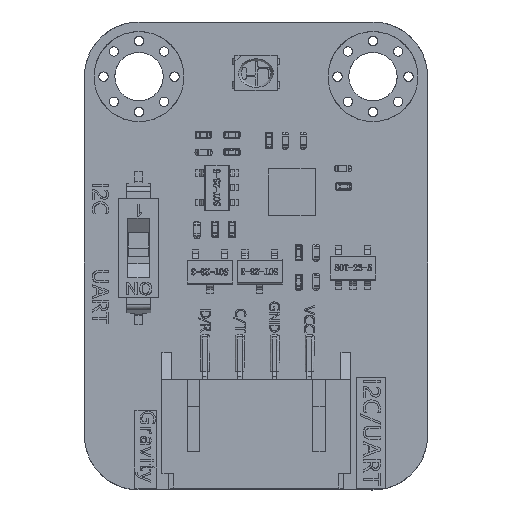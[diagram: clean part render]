
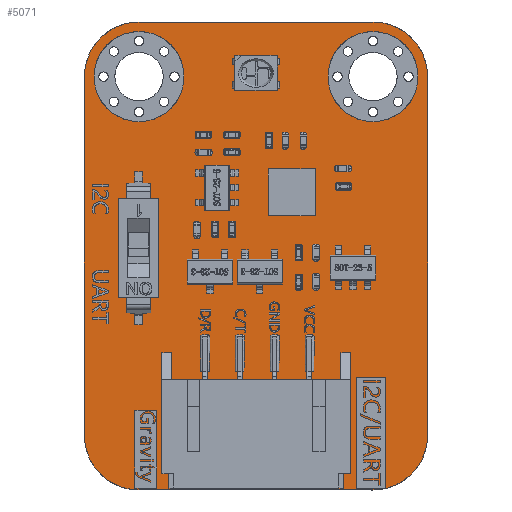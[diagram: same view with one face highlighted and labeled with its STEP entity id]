
A CAD part, top view. The second image highlights one B-rep face of the part: STEP entity #5071.
In plain terms, the highlighted planar face has unit normal (0, 0, 1).
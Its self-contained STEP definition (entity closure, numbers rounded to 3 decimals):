
#361=(
BOUNDED_CURVE()
B_SPLINE_CURVE(2,(#92674,#92675,#92676,#92677,#92678),.UNSPECIFIED.,.F.,
 .F.)
B_SPLINE_CURVE_WITH_KNOTS((3,2,3),(0.,2.749,5.498),
 .UNSPECIFIED.)
CURVE()
GEOMETRIC_REPRESENTATION_ITEM()
RATIONAL_B_SPLINE_CURVE((1.,0.924,1.,0.924,1.))
REPRESENTATION_ITEM('')
);
#362=(
BOUNDED_CURVE()
B_SPLINE_CURVE(2,(#92681,#92682,#92683,#92684,#92685),.UNSPECIFIED.,.F.,
 .F.)
B_SPLINE_CURVE_WITH_KNOTS((3,2,3),(0.,2.749,5.498),
 .UNSPECIFIED.)
CURVE()
GEOMETRIC_REPRESENTATION_ITEM()
RATIONAL_B_SPLINE_CURVE((1.,0.924,1.,0.924,1.))
REPRESENTATION_ITEM('')
);
#363=(
BOUNDED_CURVE()
B_SPLINE_CURVE(2,(#92688,#92689,#92690,#92691,#92692),.UNSPECIFIED.,.F.,
 .F.)
B_SPLINE_CURVE_WITH_KNOTS((3,2,3),(0.,2.749,5.498),
 .UNSPECIFIED.)
CURVE()
GEOMETRIC_REPRESENTATION_ITEM()
RATIONAL_B_SPLINE_CURVE((1.,0.924,1.,0.924,1.))
REPRESENTATION_ITEM('')
);
#364=(
BOUNDED_CURVE()
B_SPLINE_CURVE(2,(#92695,#92696,#92697,#92698,#92699),.UNSPECIFIED.,.F.,
 .F.)
B_SPLINE_CURVE_WITH_KNOTS((3,2,3),(0.,2.749,5.498),
 .UNSPECIFIED.)
CURVE()
GEOMETRIC_REPRESENTATION_ITEM()
RATIONAL_B_SPLINE_CURVE((1.,0.924,1.,0.924,1.))
REPRESENTATION_ITEM('')
);
#3757=FACE_BOUND('',#11190,.T.);
#3758=FACE_BOUND('',#11191,.T.);
#5071=ADVANCED_FACE('',(#8075,#3757,#3758),#47885,.T.);
#8075=FACE_OUTER_BOUND('',#11189,.T.);
#11189=EDGE_LOOP('',(#19423,#19424,#19425,#19426,#19427,#19428,#19429,#19430));
#11190=EDGE_LOOP('',(#19431,#19432));
#11191=EDGE_LOOP('',(#19433,#19434));
#19423=ORIENTED_EDGE('',*,*,#31105,.F.);
#19424=ORIENTED_EDGE('',*,*,#31112,.F.);
#19425=ORIENTED_EDGE('',*,*,#31111,.F.);
#19426=ORIENTED_EDGE('',*,*,#31110,.F.);
#19427=ORIENTED_EDGE('',*,*,#31109,.F.);
#19428=ORIENTED_EDGE('',*,*,#31108,.F.);
#19429=ORIENTED_EDGE('',*,*,#31107,.F.);
#19430=ORIENTED_EDGE('',*,*,#31106,.F.);
#19431=ORIENTED_EDGE('',*,*,#31129,.T.);
#19432=ORIENTED_EDGE('',*,*,#31136,.T.);
#19433=ORIENTED_EDGE('',*,*,#31132,.T.);
#19434=ORIENTED_EDGE('',*,*,#31139,.T.);
#31105=EDGE_CURVE('',#43748,#43749,#38236,.T.);
#31106=EDGE_CURVE('',#43749,#43750,#361,.T.);
#31107=EDGE_CURVE('',#43750,#43751,#38237,.T.);
#31108=EDGE_CURVE('',#43751,#43752,#362,.T.);
#31109=EDGE_CURVE('',#43752,#43753,#38238,.T.);
#31110=EDGE_CURVE('',#43753,#43754,#363,.T.);
#31111=EDGE_CURVE('',#43754,#43755,#38239,.T.);
#31112=EDGE_CURVE('',#43755,#43748,#364,.T.);
#31129=EDGE_CURVE('',#43764,#43769,#38252,.T.);
#31132=EDGE_CURVE('',#43766,#43771,#38255,.T.);
#31136=EDGE_CURVE('',#43769,#43764,#38259,.T.);
#31139=EDGE_CURVE('',#43771,#43766,#38262,.T.);
#38236=B_SPLINE_CURVE_WITH_KNOTS('',1,(#92672,#92673),.UNSPECIFIED.,.F.,
 .F.,(2,2),(0.,15.),.UNSPECIFIED.);
#38237=B_SPLINE_CURVE_WITH_KNOTS('',1,(#92679,#92680),.UNSPECIFIED.,.F.,
 .F.,(2,2),(0.,23.),.UNSPECIFIED.);
#38238=B_SPLINE_CURVE_WITH_KNOTS('',1,(#92686,#92687),.UNSPECIFIED.,.F.,
 .F.,(2,2),(0.,15.),.UNSPECIFIED.);
#38239=B_SPLINE_CURVE_WITH_KNOTS('',1,(#92693,#92694),.UNSPECIFIED.,.F.,
 .F.,(2,2),(0.,23.),.UNSPECIFIED.);
#38252=B_SPLINE_CURVE_WITH_KNOTS('',3,(#92744,#92745,#92746,#92747,#92748,
#92749,#92750),.UNSPECIFIED.,.F.,.F.,(4,3,4),(0.,1.,2.),.UNSPECIFIED.);
#38255=B_SPLINE_CURVE_WITH_KNOTS('',3,(#92760,#92761,#92762,#92763,#92764,
#92765,#92766),.UNSPECIFIED.,.F.,.F.,(4,3,4),(0.,1.,2.),.UNSPECIFIED.);
#38259=B_SPLINE_CURVE_WITH_KNOTS('',3,(#92778,#92779,#92780,#92781,#92782,
#92783,#92784),.UNSPECIFIED.,.F.,.F.,(4,3,4),(2.,3.,4.),.UNSPECIFIED.);
#38262=B_SPLINE_CURVE_WITH_KNOTS('',3,(#92794,#92795,#92796,#92797,#92798,
#92799,#92800),.UNSPECIFIED.,.F.,.F.,(4,3,4),(2.,3.,4.),.UNSPECIFIED.);
#43748=VERTEX_POINT('',#92648);
#43749=VERTEX_POINT('',#92649);
#43750=VERTEX_POINT('',#92650);
#43751=VERTEX_POINT('',#92651);
#43752=VERTEX_POINT('',#92652);
#43753=VERTEX_POINT('',#92653);
#43754=VERTEX_POINT('',#92654);
#43755=VERTEX_POINT('',#92655);
#43764=VERTEX_POINT('',#92664);
#43766=VERTEX_POINT('',#92666);
#43769=VERTEX_POINT('',#92669);
#43771=VERTEX_POINT('',#92671);
#47885=PLANE('',#49477);
#49477=AXIS2_PLACEMENT_3D('',#92546,#51053,$);
#51053=DIRECTION('',(0.,0.,1.));
#92546=CARTESIAN_POINT('',(-13.2,18.,0.));
#92648=CARTESIAN_POINT('',(-7.5,15.,0.));
#92649=CARTESIAN_POINT('',(7.5,15.,0.));
#92650=CARTESIAN_POINT('',(11.,11.5,0.));
#92651=CARTESIAN_POINT('',(11.,-11.5,0.));
#92652=CARTESIAN_POINT('',(7.5,-15.,0.));
#92653=CARTESIAN_POINT('',(-7.5,-15.,0.));
#92654=CARTESIAN_POINT('',(-11.,-11.5,0.));
#92655=CARTESIAN_POINT('',(-11.,11.5,0.));
#92664=CARTESIAN_POINT('',(-7.5,14.386,0.));
#92666=CARTESIAN_POINT('',(7.5,14.386,0.));
#92669=CARTESIAN_POINT('',(-7.5,8.614,0.));
#92671=CARTESIAN_POINT('',(7.5,8.614,0.));
#92672=CARTESIAN_POINT('',(-7.5,15.,0.));
#92673=CARTESIAN_POINT('',(7.5,15.,0.));
#92674=CARTESIAN_POINT('',(7.5,15.,0.));
#92675=CARTESIAN_POINT('',(8.95,15.,0.));
#92676=CARTESIAN_POINT('',(9.975,13.975,0.));
#92677=CARTESIAN_POINT('',(11.,12.95,0.));
#92678=CARTESIAN_POINT('',(11.,11.5,0.));
#92679=CARTESIAN_POINT('',(11.,11.5,0.));
#92680=CARTESIAN_POINT('',(11.,-11.5,0.));
#92681=CARTESIAN_POINT('',(11.,-11.5,0.));
#92682=CARTESIAN_POINT('',(11.,-12.95,0.));
#92683=CARTESIAN_POINT('',(9.975,-13.975,0.));
#92684=CARTESIAN_POINT('',(8.95,-15.,0.));
#92685=CARTESIAN_POINT('',(7.5,-15.,0.));
#92686=CARTESIAN_POINT('',(7.5,-15.,0.));
#92687=CARTESIAN_POINT('',(-7.5,-15.,0.));
#92688=CARTESIAN_POINT('',(-7.5,-15.,0.));
#92689=CARTESIAN_POINT('',(-8.95,-15.,0.));
#92690=CARTESIAN_POINT('',(-9.975,-13.975,0.));
#92691=CARTESIAN_POINT('',(-11.,-12.95,0.));
#92692=CARTESIAN_POINT('',(-11.,-11.5,0.));
#92693=CARTESIAN_POINT('',(-11.,-11.5,0.));
#92694=CARTESIAN_POINT('',(-11.,11.5,0.));
#92695=CARTESIAN_POINT('',(-11.,11.5,0.));
#92696=CARTESIAN_POINT('',(-11.,12.95,0.));
#92697=CARTESIAN_POINT('',(-9.975,13.975,0.));
#92698=CARTESIAN_POINT('',(-8.95,15.,0.));
#92699=CARTESIAN_POINT('',(-7.5,15.,0.));
#92744=CARTESIAN_POINT('',(-7.5,14.386,0.));
#92745=CARTESIAN_POINT('',(-5.905,14.386,0.));
#92746=CARTESIAN_POINT('',(-4.613,13.094,0.));
#92747=CARTESIAN_POINT('',(-4.613,11.499,0.));
#92748=CARTESIAN_POINT('',(-4.613,9.906,0.));
#92749=CARTESIAN_POINT('',(-5.905,8.614,0.));
#92750=CARTESIAN_POINT('',(-7.5,8.614,0.));
#92760=CARTESIAN_POINT('',(7.5,14.386,0.));
#92761=CARTESIAN_POINT('',(9.095,14.386,0.));
#92762=CARTESIAN_POINT('',(10.387,13.094,0.));
#92763=CARTESIAN_POINT('',(10.387,11.499,0.));
#92764=CARTESIAN_POINT('',(10.387,9.906,0.));
#92765=CARTESIAN_POINT('',(9.095,8.614,0.));
#92766=CARTESIAN_POINT('',(7.5,8.614,0.));
#92778=CARTESIAN_POINT('',(-7.5,8.614,0.));
#92779=CARTESIAN_POINT('',(-9.095,8.614,0.));
#92780=CARTESIAN_POINT('',(-10.387,9.906,0.));
#92781=CARTESIAN_POINT('',(-10.387,11.499,0.));
#92782=CARTESIAN_POINT('',(-10.387,13.094,0.));
#92783=CARTESIAN_POINT('',(-9.095,14.386,0.));
#92784=CARTESIAN_POINT('',(-7.5,14.386,0.));
#92794=CARTESIAN_POINT('',(7.5,8.614,0.));
#92795=CARTESIAN_POINT('',(5.905,8.614,0.));
#92796=CARTESIAN_POINT('',(4.613,9.906,0.));
#92797=CARTESIAN_POINT('',(4.613,11.499,0.));
#92798=CARTESIAN_POINT('',(4.613,13.094,0.));
#92799=CARTESIAN_POINT('',(5.905,14.386,0.));
#92800=CARTESIAN_POINT('',(7.5,14.386,0.));
